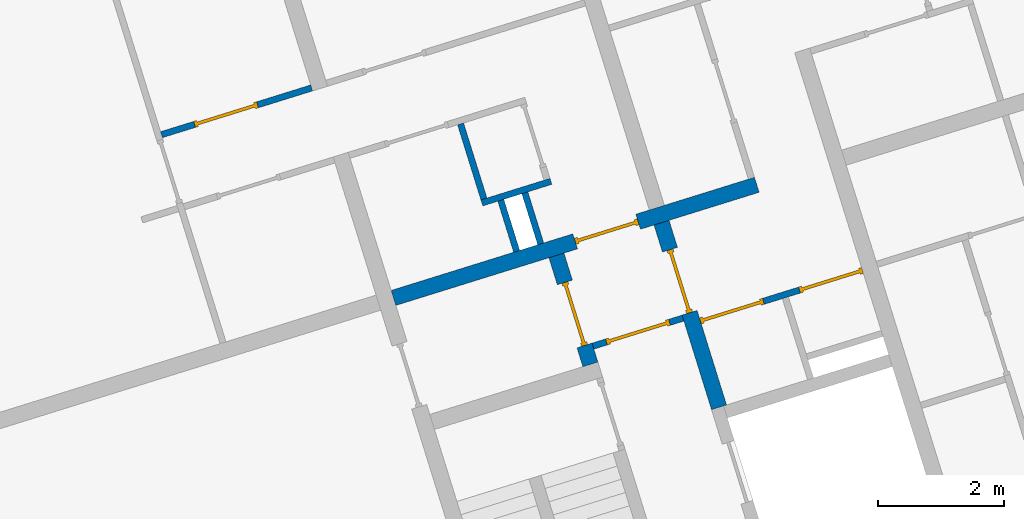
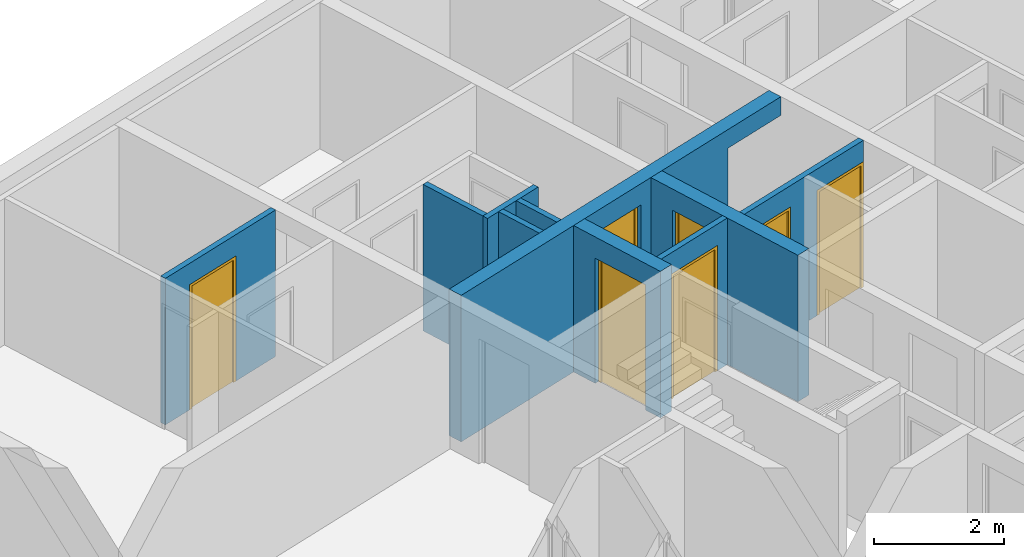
# One storey, part 5 of 9: 10 walls, 7 doors, 9 openings.
"""IFC4 building model written with IfcOpenShell, lengths in metres."""

import ifcopenshell
import ifcopenshell.guid

model = None  # the IFC model being written
_history = None  # IfcOwnerHistory: only IFC2X3 demands one
_inside = {}  # id of a spatial element -> (the spatial element, [elements in it])
_under = {}  # id of a project, library or spatial element -> (it, [spatial elements below it])
_declared = {}  # id of a project -> (the project, [libraries it declares])
_typed = {}  # id of a type object -> (the type object, [elements of that type])
_made_of = {}  # id of a material, layer set ... -> (it, [elements and type objects made of it])


def new_model(schema):
    """Start an empty IFC model of exactly this schema.

    Asked for "IFC4X3", IfcOpenShell would pick the latest addendum, in which some entities
    have other attributes; the version numbers below select the first issue.
    IFC2X3 requires an IfcOwnerHistory on every rooted entity: one is made here for all.
    """
    global model, _history
    if schema == "IFC4X3":
        model = ifcopenshell.file(schema_version=(4, 3, 0, 0))
    else:
        model = ifcopenshell.file(schema=schema)
    _inside.clear()
    _under.clear()
    _declared.clear()
    _typed.clear()
    _made_of.clear()
    _history = None
    if model.schema == "IFC2X3":
        org = make("IfcOrganization", Name="unknown")
        user = make(
            "IfcPersonAndOrganization",
            ThePerson=make("IfcPerson", FamilyName="unknown"),
            TheOrganization=org,
        )
        app = make(
            "IfcApplication",
            ApplicationDeveloper=org,
            Version="unknown",
            ApplicationFullName="unknown",
            ApplicationIdentifier="unknown",
        )
        _history = make(
            "IfcOwnerHistory",
            OwningUser=user,
            OwningApplication=app,
            ChangeAction="ADDED",
            CreationDate=0,
        )
    return model


def make(cls, **values):
    """One entity of the class cls with the attributes given. An attribute that is None is left unset."""
    return model.create_entity(
        cls, **{name: value for name, value in values.items() if value is not None}
    )


def entity(cls, *values):
    """Any entity or typed value of the class cls, its attributes in the order of the schema. None: left unset."""
    e = model.create_entity(cls)
    for i, value in enumerate(values):
        if value is not None:
            e[i] = value
    return e


def rooted(cls, **values):
    """An entity with a GlobalId (a new one), such as an element, a storey or a relation."""
    return make(cls, GlobalId=ifcopenshell.guid.new(), OwnerHistory=_history, **values)


def si_unit(unit_type, name, prefix=None):
    """IfcSIUnit, for example si_unit("LENGTHUNIT", "METRE", prefix="MILLI")."""
    return make("IfcSIUnit", UnitType=unit_type, Prefix=prefix, Name=name)


def converted_unit(unit_type, name, factor, base, dimensions=None, offset=None):
    """IfcConversionBasedUnit, such as the inch: factor (a typed value) times the base unit."""
    return make(
        "IfcConversionBasedUnit"
        if offset is None
        else "IfcConversionBasedUnitWithOffset",
        ConversionOffset=offset,
        Dimensions=None
        if dimensions is None
        else entity("IfcDimensionalExponents", *dimensions),
        UnitType=unit_type,
        Name=name,
        ConversionFactor=make(
            "IfcMeasureWithUnit", ValueComponent=factor, UnitComponent=base
        ),
    )


def assignment(units):
    """IfcUnitAssignment: the units of a project."""
    return None if units is None else make("IfcUnitAssignment", Units=units)


def point(xyz):
    """IfcCartesianPoint."""
    return None if xyz is None else make("IfcCartesianPoint", Coordinates=xyz)


def direction(xyz):
    """IfcDirection."""
    return None if xyz is None else make("IfcDirection", DirectionRatios=xyz)


def frame(location, z_axis=None, x_axis=None):
    """IfcAxis2Placement3D, a coordinate frame: its origin and axes. An axis left out is left unset."""
    return make(
        "IfcAxis2Placement3D",
        Location=point(location),
        Axis=direction(z_axis),
        RefDirection=direction(x_axis),
    )


def origin():
    """The frame at (0, 0, 0) with its axes left unset."""
    return frame((0.0, 0.0, 0.0))


def place(relative_to, where):
    """IfcLocalPlacement: puts the frame where relative to a parent placement (None: the world)."""
    return make(
        "IfcLocalPlacement", PlacementRelTo=relative_to, RelativePlacement=where
    )


def context(
    kind, dimensions, precision=None, world=None, true_north=None, identifier=None
):
    """IfcGeometricRepresentationContext, for example the 3D "Model" context."""
    return make(
        "IfcGeometricRepresentationContext",
        ContextIdentifier=identifier,
        ContextType=kind,
        CoordinateSpaceDimension=dimensions,
        Precision=precision,
        WorldCoordinateSystem=world,
        TrueNorth=true_north,
    )


def subcontext(parent, identifier, kind, view, scale=None):
    """IfcGeometricRepresentationSubContext, for example "Body" below "Model"."""
    return make(
        "IfcGeometricRepresentationSubContext",
        ContextIdentifier=identifier,
        ContextType=kind,
        ParentContext=parent,
        TargetScale=scale,
        TargetView=view,
    )


def project(units=None, contexts=None):
    """IfcProject with its units and contexts."""
    return rooted(
        "IfcProject",
        Name="project",
        RepresentationContexts=contexts,
        UnitsInContext=assignment(units),
    )


def spatial(cls, under=None, at=None, **own):
    """A site, building, storey or space (cls), placed at a placement, below another one or the project."""
    s = rooted(cls, ObjectPlacement=at, **own)
    if under is not None:
        _under.setdefault(under.id(), (under, []))[1].append(s)
    return s


def point_list(points):
    """IfcCartesianPointList2D or 3D."""
    cls = (
        "IfcCartesianPointList2D" if len(points[0]) == 2 else "IfcCartesianPointList3D"
    )
    return make(cls, CoordList=points)


def indexed_curve(points, segments=None, self_intersect=None):
    """IfcIndexedPolyCurve: lines and arcs through numbered points (the first is 1)."""
    return make(
        "IfcIndexedPolyCurve",
        Points=point_list(points),
        Segments=segments,
        SelfIntersect=self_intersect,
    )


def outline(outer, holes=None, kind="AREA"):
    """IfcArbitraryClosedProfileDef: a profile drawn as a closed curve; with holes, ...WithVoids."""
    if holes is None:
        return make("IfcArbitraryClosedProfileDef", ProfileType=kind, OuterCurve=outer)
    return make(
        "IfcArbitraryProfileDefWithVoids",
        ProfileType=kind,
        OuterCurve=outer,
        InnerCurves=holes,
    )


def extrude(swept, where, along, depth):
    """IfcExtrudedAreaSolid: the profile swept, set in the frame where, extruded along a direction by depth."""
    return make(
        "IfcExtrudedAreaSolid",
        SweptArea=swept,
        Position=where,
        ExtrudedDirection=direction(along),
        Depth=depth,
    )


def polygons(points, faces, closed=None, point_numbers=None):
    """IfcPolygonalFaceSet: a face is its outer loop, then its inner loops; points numbered from 1."""
    made = []
    for loops in faces:
        if len(loops) == 1:
            made.append(make("IfcIndexedPolygonalFace", CoordIndex=loops[0]))
        else:
            made.append(
                make(
                    "IfcIndexedPolygonalFaceWithVoids",
                    CoordIndex=loops[0],
                    InnerCoordIndices=loops[1:],
                )
            )
    return make(
        "IfcPolygonalFaceSet",
        Coordinates=point_list(points),
        Closed=closed,
        Faces=made,
        PnIndex=point_numbers,
    )


def shape(context_of_items, identifier, shape_type, items):
    """IfcShapeRepresentation: the items that make up one representation, for example the "Body"."""
    return make(
        "IfcShapeRepresentation",
        ContextOfItems=context_of_items,
        RepresentationIdentifier=identifier,
        RepresentationType=shape_type,
        Items=items,
    )


def source(mapping_origin, context_of_items, identifier, shape_type, items):
    """IfcRepresentationMap: a shape defined once, which mapped items show again and again."""
    return make(
        "IfcRepresentationMap",
        MappingOrigin=mapping_origin,
        MappedRepresentation=shape(context_of_items, identifier, shape_type, items),
    )


def transform(
    local_origin,
    x_axis=None,
    y_axis=None,
    z_axis=None,
    scale=None,
    scale2=None,
    scale3=None,
    uniform=True,
):
    """IfcCartesianTransformationOperator3D, or its non-uniform kind. x_axis, y_axis, z_axis: its Axis1, 2, 3."""
    if uniform:
        return make(
            "IfcCartesianTransformationOperator3D",
            Axis1=direction(x_axis),
            Axis2=direction(y_axis),
            LocalOrigin=point(local_origin),
            Scale=scale,
            Axis3=direction(z_axis),
        )
    return make(
        "IfcCartesianTransformationOperator3DnonUniform",
        Axis1=direction(x_axis),
        Axis2=direction(y_axis),
        LocalOrigin=point(local_origin),
        Scale=scale,
        Axis3=direction(z_axis),
        Scale2=scale2,
        Scale3=scale3,
    )


def mapped(mapping_source, mapping_target):
    """IfcMappedItem: shows the shape of a source again, moved by a transform."""
    return make(
        "IfcMappedItem", MappingSource=mapping_source, MappingTarget=mapping_target
    )


def material(Name=None, Category=None):
    """IfcMaterial."""
    return make("IfcMaterial", Name=Name, Category=Category)


def constituent(of_material, Name=None, Category=None, fraction=None):
    """IfcMaterialConstituent: one of the materials an element consists of."""
    return make(
        "IfcMaterialConstituent",
        Name=Name,
        Material=of_material,
        Fraction=fraction,
        Category=Category,
    )


def constituent_set(constituents=None, Name=None):
    """IfcMaterialConstituentSet."""
    return make(
        "IfcMaterialConstituentSet", Name=Name, MaterialConstituents=constituents
    )


def made_of(thing, what):
    """Note that an element or type object is made of a material, layer set ...; save() writes the relation."""
    if what is not None:
        _made_of.setdefault(what.id(), (what, []))[1].append(thing)
    return thing


def type_object(cls, material=None, **own):
    """A type object (cls), such as IfcWallType, which elements share."""
    return made_of(rooted(cls, **own), material)


def type_shapes(of_type, sources):
    """Give a type object the sources (RepresentationMaps) that its elements show as mapped items."""
    of_type.RepresentationMaps = sources


def element(
    cls,
    number,
    at=None,
    inside=None,
    cuts=None,
    type_object=None,
    material=None,
    context=None,
    identifier="Body",
    shape_type=None,
    held_by="IfcProductDefinitionShape",
    body=None,
    shapes=None,
    **own,
):
    """One element of the class cls, such as IfcWall. Its Tag is "e" and its number.

    at: its placement. inside: the storey or other place that contains it. cuts: it is an
    opening in that element (IfcRelVoidsElement). A single representation is given by context,
    identifier, shape_type and body (its items); several are given by shapes. held_by: the class
    of the entity that holds the representations. save() writes the other relations.
    """
    e = rooted(cls, Tag="e%d" % number, ObjectPlacement=at, **own)
    if body is not None:
        shapes = [shape(context, identifier, shape_type, body)]
    if shapes is not None:
        e.Representation = make(held_by, Representations=shapes)
    if inside is not None:
        _inside.setdefault(inside.id(), (inside, []))[1].append(e)
    if cuts is not None:
        rooted(
            "IfcRelVoidsElement", RelatingBuildingElement=cuts, RelatedOpeningElement=e
        )
    if type_object is not None:
        _typed.setdefault(type_object.id(), (type_object, []))[1].append(e)
    return made_of(e, material)


def fill(opening, filler):
    """IfcRelFillsElement: the door or window that sits in an opening."""
    return rooted(
        "IfcRelFillsElement",
        RelatingOpeningElement=opening,
        RelatedBuildingElement=filler,
    )


def aggregate(whole, parts):
    """IfcRelAggregates: a whole, such as a stair, and the parts it consists of."""
    return rooted("IfcRelAggregates", RelatingObject=whole, RelatedObjects=parts)


def save(model, path):
    """Write the relations noted so far, then the file.

    IfcRelAggregates (storeys below a building ...), IfcRelContainedInSpatialStructure (elements
    in a storey), IfcRelDefinesByType, IfcRelAssociatesMaterial and IfcRelDeclares: one each for
    every whole, place, type object, material and project.
    """
    for whole, parts in _under.values():
        aggregate(whole, parts)
    for where, things in _inside.values():
        rooted(
            "IfcRelContainedInSpatialStructure",
            RelatedElements=things,
            RelatingStructure=where,
        )
    for kind, things in _typed.values():
        rooted("IfcRelDefinesByType", RelatedObjects=things, RelatingType=kind)
    for what, things in _made_of.values():
        rooted("IfcRelAssociatesMaterial", RelatedObjects=things, RelatingMaterial=what)
    for by, libraries in _declared.values():
        rooted("IfcRelDeclares", RelatingContext=by, RelatedDefinitions=libraries)
    model.write(path)


model = new_model("IFC4")

# Units and contexts
model_context = context("Model", 3, precision=1e-05, world=origin(), true_north=direction((6.12323399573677e-17, 1.0)))
body_context = subcontext(model_context, "Body", "Model", "MODEL_VIEW")
ifc_project = project(units=[si_unit("LENGTHUNIT", "METRE"), si_unit("AREAUNIT", "SQUARE_METRE"), converted_unit("PLANEANGLEUNIT", "DEGREE", entity("IfcPlaneAngleMeasure", 0.0174532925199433), si_unit("PLANEANGLEUNIT", "RADIAN"), dimensions=[0, 0, 0, 0, 0, 0, 0]), si_unit("VOLUMEUNIT", "CUBIC_METRE")], contexts=[model_context])

# Site, building, storey
site_placement = place(None, frame((13.1347999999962, 11.9886000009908, 0.0), z_axis=(0.0, 0.0, 1.0), x_axis=(0.954770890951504, 0.297342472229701, 0.0)))
site = spatial("IfcSite", under=ifc_project, at=site_placement, Name="Schiehaven", CompositionType="ELEMENT")
building_placement = place(site_placement, origin())
building = spatial("IfcBuilding", under=site, at=building_placement, Name="VORM huis", CompositionType="ELEMENT")
storey_placement = place(building_placement, frame((0.0, 0.0, 18.9)))
storey = spatial("IfcBuildingStorey", under=building, at=storey_placement, Name="06 zesde verdieping", CompositionType="ELEMENT", Elevation=18.9)

# Wall, openings, door
ifc_material_1 = material(Name="beton_gewapend_ihw", Category="Miscellaneous")
wall_type_1 = type_object("IfcWallType", Name="Basic Wall:28_WA_skelet_wand 250mm_gen", PredefinedType="STANDARD")
wall_1_placement = place(storey_placement, frame((72.3749999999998, 22.1999999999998, 0.0), z_axis=(0.0, 0.0, 1.0), x_axis=(-1.0, 0.0, 0.0)))
wall_1 = element("IfcWall", 1, at=wall_1_placement, inside=storey, type_object=wall_type_1, material=ifc_material_1, Name="Constructieve wand", ObjectType="Wand", PredefinedType="NOTDEFINED", context=body_context, shape_type="Tessellation", body=[
    polygons([(4.225, -0.124999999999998, 2.34999999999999), (4.225, -0.124999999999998, 0.0), (7.25000000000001, -0.124999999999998, 0.0), (7.25000000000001, -0.124999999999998, 2.75), (9.99819487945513e-15, -0.124999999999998, 2.75), (9.99819487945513e-15, -0.124999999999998, 2.4), (1.2, -0.124999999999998, 2.4), (1.2, -0.124999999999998, 0.0), (3.175, -0.124999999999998, 0.0), (3.175, -0.124999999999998, 2.34999999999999), (7.25000000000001, 0.125000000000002, 0.0), (4.22500000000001, 0.125000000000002, 0.0), (4.22500000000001, 0.125000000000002, 2.34999999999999), (3.175, 0.125000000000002, 2.34999999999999), (3.175, 0.125000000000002, 0.0), (1.2, 0.125000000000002, 0.0), (1.2, 0.125000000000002, 2.4), (1.32815610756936e-14, 0.125000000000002, 2.4), (1.32815610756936e-14, 0.125000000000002, 2.75), (7.25, 0.125000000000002, 2.75)], [[[1, 2, 3, 4, 5, 6, 7, 8, 9, 10]], [[11, 12, 13, 14, 15, 16, 17, 18, 19, 20]], [[9, 8, 16, 15]], [[5, 4, 20, 19]], [[5, 19, 18, 6]], [[15, 14, 10, 9]], [[13, 12, 2, 1]], [[14, 13, 1, 10]], [[7, 17, 16, 8]], [[17, 7, 6, 18]], [[4, 3, 11, 20]], [[3, 2, 12, 11]]], closed=True),
])
opening_1_placement = place(wall_1_placement, origin())
element("IfcOpeningElement", 2, at=opening_1_placement, cuts=wall_1, Name="Constructieve wand", PredefinedType="OPENING", context=body_context, shape_type="SweptSolid", body=[
    extrude(outline(indexed_curve([(-1.2, -0.600000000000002), (1.2, -0.600000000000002), (1.2, 0.600000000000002), (-1.2, 0.600000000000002), (-1.2, -0.600000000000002)], self_intersect=False)), frame((0.599999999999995, -0.124999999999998, 1.2), z_axis=(0.0, 1.0, 0.0), x_axis=(0.0, 0.0, -1.0)), (0.0, 0.0, 1.0), 0.250000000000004),
])
opening_2_placement = place(wall_1_placement, frame((3.175, -0.124999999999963, 0.0)))
opening_2 = element("IfcOpeningElement", 3, at=opening_2_placement, cuts=wall_1, Name="Woningtoegangsdeur", PredefinedType="OPENING", context=body_context, shape_type="SweptSolid", body=[
    extrude(outline(indexed_curve([(2.34999999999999, 2.2221558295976e-31), (2.34999999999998, 1.05), (0.0, 1.05), (2.16573425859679e-15, 2.2221558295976e-31), (2.34999999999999, 2.2221558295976e-31)], self_intersect=False)), frame((0.0, 0.0, 0.0), z_axis=(0.0, 1.0, 0.0), x_axis=(0.0, 0.0, 1.0)), (0.0, 0.0, 1.0), 0.25),
])
ifc_material_2 = material(Name="PD_a_binnenwandopeningen", Category="Miscellaneous")
ifc_constituent_1 = constituent(ifc_material_2, Name="PD_a_binnenwandopeningen", Category="Miscellaneous")
ifc_material_3 = material(Name="metaal_aluminium_ntb", Category="Miscellaneous")
ifc_constituent_2 = constituent(ifc_material_3, Name="metaal_aluminium_ntb", Category="Miscellaneous")
ifc_constituent_set_1 = constituent_set(constituents=[ifc_constituent_1, ifc_constituent_2])
ifc_constituent_3 = constituent(ifc_material_2, Name="PD_a_binnenwandopeningen", Category="Miscellaneous")
ifc_constituent_4 = constituent(ifc_material_3, Name="Panel", Category="Miscellaneous")
ifc_constituent_set_2 = constituent_set(constituents=[ifc_constituent_3, ifc_constituent_4])
door_type_1 = type_object("IfcDoorType", Name="32_DO_binnendeur enkel:woningtoegangsdeur", OperationType="REVOLVING", PredefinedType="DOOR", material=ifc_constituent_set_2)
shared_shape_1 = source(origin(), body_context, "Body", "SweptSolid", [
    extrude(outline(indexed_curve([(0.475, -1.16249999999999), (0.525000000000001, -1.16249999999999), (0.525000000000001, 1.18749999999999), (-0.525000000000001, 1.18749999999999), (-0.525000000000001, -1.16249999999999), (-0.475, -1.16249999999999), (-0.475, 1.13749999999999), (0.475, 1.13749999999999), (0.475, -1.16249999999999)], self_intersect=False)), frame((0.525000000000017, 0.174999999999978, 1.16249999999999), z_axis=(0.0, -1.0, 0.0), x_axis=(1.0, 0.0, 0.0)), (0.0, 0.0, 1.0), 0.1),
    extrude(outline(indexed_curve([(-0.475, -0.025), (0.475, -0.025), (0.475, 0.025), (-0.475, 0.025), (-0.475, -0.025)], self_intersect=False)), frame((0.525000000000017, 0.12499999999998, 0.0)), (0.0, 0.0, 1.0), 2.29999999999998),
])
type_shapes(door_type_1, [shared_shape_1])
door_1_placement = place(opening_2_placement, origin())
door_1 = element("IfcDoor", 4, at=door_1_placement, inside=storey, type_object=door_type_1, material=ifc_constituent_set_1, Name="Woningtoegangsdeur", ObjectType="Deur", OperationType="REVOLVING", OverallHeight=2.34999999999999, OverallWidth=1.05, PredefinedType="DOOR", context=body_context, shape_type="MappedRepresentation", body=[
    mapped(shared_shape_1, transform((0.0, 0.0, 0.0), scale=1.0)),
])
fill(opening_2, door_1)

# Wall, opening, door
ifc_material_4 = material(Name="ntb_ntb_ntb", Category="Miscellaneous")
wall_type_2 = type_object("IfcWallType", Name="Basic Wall:22_WA_afbouw_binnenwand 250mm_gen", PredefinedType="STANDARD")
wall_2_placement = place(storey_placement, frame((67.7999999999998, 20.2599999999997, 0.0), z_axis=(0.0, 0.0, 1.0), x_axis=(0.0, 1.0, 0.0)))
wall_2 = element("IfcWall", 5, at=wall_2_placement, inside=storey, type_object=wall_type_2, material=ifc_material_4, Name="Binnenwand", ObjectType="Wand", PredefinedType="NOTDEFINED", context=body_context, shape_type="Tessellation", body=[
    polygons([(4.33146851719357e-15, -0.125000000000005, 0.0), (0.215000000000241, -0.125, 0.0), (0.31500000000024, -0.125000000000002, 0.0), (0.31500000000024, -0.125000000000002, 2.34999999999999), (1.36500000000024, -0.124999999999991, 2.34999999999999), (1.36500000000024, -0.124999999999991, 0.0), (1.81500000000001, -0.124999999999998, 0.0), (1.81500000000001, -0.124999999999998, 2.75), (0.31500000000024, -0.125000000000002, 2.75), (0.215000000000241, -0.125, 2.75), (4.33146851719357e-15, -0.125000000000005, 2.75), (0.31500000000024, 0.125000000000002, 2.34999999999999), (0.31500000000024, 0.125000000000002, 0.0), (8.66293703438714e-15, 0.125000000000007, 0.0), (4.33146851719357e-15, 0.125000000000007, 2.75), (1.81500000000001, 0.124999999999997, 2.75), (1.81500000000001, 0.124999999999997, 0.0), (1.36500000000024, 0.125000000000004, 0.0), (1.36500000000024, 0.125000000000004, 2.34999999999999)], [[[1, 2, 3, 4, 5, 6, 7, 8, 9, 10, 11]], [[12, 13, 14, 15, 16, 17, 18, 19]], [[14, 13, 3, 2, 1]], [[8, 7, 17, 16]], [[11, 10, 9, 8, 16, 15]], [[6, 5, 19, 18]], [[4, 3, 13, 12]], [[5, 4, 12, 19]], [[1, 11, 15, 14]], [[18, 17, 7, 6]]], closed=True),
])
opening_3_placement = place(wall_2_placement, frame((1.36500000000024, 0.125000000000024, 0.0)))
opening_3 = element("IfcOpeningElement", 6, at=opening_3_placement, cuts=wall_2, Name="Woningtoegangsdeur", PredefinedType="OPENING", context=body_context, shape_type="SweptSolid", body=[
    extrude(outline(indexed_curve([(2.34999999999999, 0.0), (2.34999999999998, 1.05), (0.0, 1.05), (2.16573425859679e-15, 0.0), (2.34999999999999, 0.0)], self_intersect=False)), frame((0.0, 0.0, 0.0), z_axis=(0.0, -1.0, 0.0), x_axis=(0.0, 0.0, 1.0)), (0.0, 0.0, 1.0), 0.25),
])
ifc_constituent_5 = constituent(ifc_material_2, Name="PD_a_binnenwandopeningen", Category="Miscellaneous")
ifc_constituent_6 = constituent(ifc_material_3, Name="metaal_aluminium_ntb", Category="Miscellaneous")
ifc_constituent_set_3 = constituent_set(constituents=[ifc_constituent_5, ifc_constituent_6])
ifc_constituent_7 = constituent(ifc_material_2, Name="PD_a_binnenwandopeningen", Category="Miscellaneous")
ifc_constituent_8 = constituent(ifc_material_3, Name="Panel", Category="Miscellaneous")
ifc_constituent_set_4 = constituent_set(constituents=[ifc_constituent_7, ifc_constituent_8])
door_type_2 = type_object("IfcDoorType", Name="32_DO_binnendeur enkel:woningtoegangsdeur", OperationType="REVOLVING", PredefinedType="DOOR", material=ifc_constituent_set_4)
shared_shape_2 = source(origin(), body_context, "Body", "SweptSolid", [
    extrude(outline(indexed_curve([(0.475, -1.16249999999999), (0.525000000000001, -1.16249999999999), (0.525000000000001, 1.18749999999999), (-0.525000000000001, 1.18749999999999), (-0.525000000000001, -1.16249999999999), (-0.475, -1.16249999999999), (-0.475, 1.13749999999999), (0.475, 1.13749999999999), (0.475, -1.16249999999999)], self_intersect=False)), frame((0.525000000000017, 0.174999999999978, 1.16249999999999), z_axis=(0.0, -1.0, 0.0), x_axis=(1.0, 0.0, 0.0)), (0.0, 0.0, 1.0), 0.1),
    extrude(outline(indexed_curve([(-0.475, -0.025), (0.475, -0.025), (0.475, 0.025), (-0.475, 0.025), (-0.475, -0.025)], self_intersect=False)), frame((0.525000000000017, 0.12499999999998, 0.0)), (0.0, 0.0, 1.0), 2.29999999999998),
])
type_shapes(door_type_2, [shared_shape_2])
door_2_placement = place(opening_3_placement, frame((0.0, 0.0, 0.0), z_axis=(0.0, 0.0, 1.0), x_axis=(-1.0, 0.0, 0.0)))
door_2 = element("IfcDoor", 7, at=door_2_placement, inside=storey, type_object=door_type_2, material=ifc_constituent_set_3, Name="Woningtoegangsdeur", ObjectType="Deur", OperationType="REVOLVING", OverallHeight=2.34999999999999, OverallWidth=1.05, PredefinedType="DOOR", context=body_context, shape_type="MappedRepresentation", body=[
    mapped(shared_shape_2, transform((0.0, 0.0, 0.0), scale=1.0)),
])
fill(opening_3, door_2)

wall_3_placement = place(storey_placement, frame((69.5499999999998, 19.0, 0.0), z_axis=(0.0, 0.0, 1.0), x_axis=(0.0, 1.0, 0.0)))
wall_3 = element("IfcWall", 8, at=wall_3_placement, inside=storey, type_object=wall_type_2, material=ifc_material_4, Name="Binnenwand", ObjectType="Wand", PredefinedType="NOTDEFINED", context=body_context, shape_type="Tessellation", body=[
    polygons([(2.62500000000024, -0.12500000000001, 2.34999999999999), (2.62500000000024, -0.12500000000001, 0.0), (3.075, -0.125000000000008, 0.0), (3.075, -0.125000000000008, 2.75), (0.0, -0.125000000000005, 2.75), (0.0, -0.125000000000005, 0.0), (1.57500000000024, -0.125000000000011, 0.0), (1.57500000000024, -0.125000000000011, 2.34999999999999), (3.075, 0.124999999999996, 0.0), (2.62500000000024, 0.125000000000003, 0.0), (2.62500000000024, 0.125000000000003, 2.34999999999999), (1.57500000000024, 0.124999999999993, 2.34999999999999), (1.57500000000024, 0.124999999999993, 0.0), (1.4750000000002, 0.124999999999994, 0.0), (2.16573425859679e-15, 0.12499999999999, 0.0), (2.16573425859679e-15, 0.12499999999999, 2.75), (1.4750000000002, 0.124999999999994, 2.75), (1.5750000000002, 0.124999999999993, 2.75), (3.075, 0.124999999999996, 2.75)], [[[1, 2, 3, 4, 5, 6, 7, 8]], [[9, 10, 11, 12, 13, 14, 15, 16, 17, 18, 19]], [[7, 6, 15, 14, 13]], [[4, 3, 9, 19]], [[5, 4, 19, 18, 17, 16]], [[6, 5, 16, 15]], [[13, 12, 8, 7]], [[11, 10, 2, 1]], [[12, 11, 1, 8]], [[3, 2, 10, 9]]], closed=True),
])
opening_4_placement = place(wall_3_placement, frame((1.57499999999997, -0.124999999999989, 0.0)))
opening_4 = element("IfcOpeningElement", 9, at=opening_4_placement, cuts=wall_3, Name="Woningtoegangsdeur", PredefinedType="OPENING", context=body_context, shape_type="SweptSolid", body=[
    extrude(outline(indexed_curve([(2.34999999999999, 0.0), (2.34999999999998, 1.05), (0.0, 1.05), (2.16573425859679e-15, 0.0), (2.34999999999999, 0.0)], self_intersect=False)), frame((0.0, 0.0, 0.0), z_axis=(0.0, 1.0, 0.0), x_axis=(0.0, 0.0, 1.0)), (0.0, 0.0, 1.0), 0.25),
])
ifc_constituent_9 = constituent(ifc_material_2, Name="PD_a_binnenwandopeningen", Category="Miscellaneous")
ifc_constituent_10 = constituent(ifc_material_3, Name="metaal_aluminium_ntb", Category="Miscellaneous")
ifc_constituent_set_5 = constituent_set(constituents=[ifc_constituent_9, ifc_constituent_10])
door_3_placement = place(opening_4_placement, origin())
door_3 = element("IfcDoor", 10, at=door_3_placement, inside=storey, type_object=door_type_2, material=ifc_constituent_set_5, Name="Woningtoegangsdeur", ObjectType="Deur", OperationType="REVOLVING", OverallHeight=2.34999999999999, OverallWidth=1.05, PredefinedType="DOOR", context=body_context, shape_type="MappedRepresentation", body=[
    mapped(shared_shape_2, transform((0.0, 0.0, 0.0), scale=1.0)),
])
fill(opening_4, door_3)

wall_type_3 = type_object("IfcWallType", Name="Basic Wall:22_WA_afbouw_binnenwand 100mm_gen", PredefinedType="STANDARD")
wall_4_placement = place(storey_placement, frame((67.9249999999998, 20.5249999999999, 0.0)))
wall_4 = element("IfcWall", 11, at=wall_4_placement, inside=storey, type_object=wall_type_3, material=ifc_material_4, Name="Binnenwand", ObjectType="Wand", PredefinedType="NOTDEFINED", context=body_context, shape_type="Tessellation", body=[
    polygons([(1.50000000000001, -0.0500000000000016, 2.75), (1.03359612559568e-15, -0.0499999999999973, 2.75), (1.03359612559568e-15, -0.0499999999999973, 0.0), (0.225000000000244, -0.0500000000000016, 0.0), (0.225000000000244, -0.0500000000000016, 2.34999999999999), (1.27500000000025, -0.0500000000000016, 2.34999999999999), (1.27500000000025, -0.0500000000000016, 0.0), (1.50000000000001, -0.0500000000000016, 0.0), (6.15545946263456e-16, 0.0500000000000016, 2.75), (1.50000000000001, 0.0499999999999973, 2.75), (1.50000000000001, 0.0499999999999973, 2.34999999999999), (1.50000000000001, 0.0499999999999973, 0.0), (1.27500000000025, 0.0499999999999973, 0.0), (1.27500000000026, 0.0499999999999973, 2.34999999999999), (0.225000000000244, 0.0499999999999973, 2.34999999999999), (0.225000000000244, 0.0499999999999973, 0.0), (6.15545946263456e-16, 0.0500000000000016, 0.0), (6.15545946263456e-16, 0.0500000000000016, 2.34999999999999)], [[[1, 2, 3, 4, 5, 6, 7, 8]], [[9, 10, 11, 12, 13, 14, 15, 16, 17, 18]], [[3, 17, 16, 4]], [[2, 1, 10, 9]], [[15, 5, 4, 16]], [[5, 15, 14, 6]], [[6, 14, 13, 7]], [[1, 8, 12, 11, 10]], [[3, 2, 9, 18, 17]], [[12, 8, 7, 13]]], closed=True),
])
opening_5_placement = place(wall_4_placement, frame((1.27500000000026, 0.0499999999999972, 0.0)))
opening_5 = element("IfcOpeningElement", 12, at=opening_5_placement, cuts=wall_4, Name="Vluchtdeur", PredefinedType="OPENING", context=body_context, shape_type="SweptSolid", body=[
    extrude(outline(indexed_curve([(2.34999999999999, -1.78601455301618e-29), (2.34999999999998, 1.05), (0.0, 1.05), (2.16573425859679e-15, -1.78601455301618e-29), (2.34999999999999, -1.78601455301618e-29)], self_intersect=False)), frame((0.0, 0.0, 0.0), z_axis=(0.0, -1.0, 0.0), x_axis=(0.0, 0.0, 1.0)), (0.0, 0.0, 1.0), 0.1),
])
ifc_constituent_11 = constituent(ifc_material_2, Name="PD_a_binnenwandopeningen", Category="Miscellaneous")
ifc_constituent_12 = constituent(ifc_material_3, Name="metaal_aluminium_ntb", Category="Miscellaneous")
ifc_constituent_set_6 = constituent_set(constituents=[ifc_constituent_11, ifc_constituent_12])
ifc_constituent_13 = constituent(ifc_material_2, Name="PD_a_binnenwandopeningen", Category="Miscellaneous")
ifc_constituent_14 = constituent(ifc_material_3, Name="Panel", Category="Miscellaneous")
ifc_constituent_set_7 = constituent_set(constituents=[ifc_constituent_13, ifc_constituent_14])
door_type_3 = type_object("IfcDoorType", Name="32_DO_binnendeur enkel:binnendeur zelfsluitend 30min", OperationType="NOTDEFINED", PredefinedType="DOOR", material=ifc_constituent_set_7)
shared_shape_3 = source(origin(), body_context, "Body", "SweptSolid", [
    extrude(outline(indexed_curve([(0.475, -1.16249999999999), (0.525, -1.16249999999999), (0.525, 1.18749999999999), (-0.525, 1.18749999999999), (-0.525, -1.16249999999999), (-0.475, -1.16249999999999), (-0.475, 1.13749999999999), (0.475, 1.13749999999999), (0.475, -1.16249999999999)], self_intersect=False)), frame((0.525000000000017, 0.100000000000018, 1.16249999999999), z_axis=(0.0, -1.0, 0.0), x_axis=(1.0, 0.0, 0.0)), (0.0, 0.0, 1.0), 0.1),
    extrude(outline(indexed_curve([(-0.475, -0.025), (0.475, -0.025), (0.475, 0.025), (-0.475, 0.025), (-0.475, -0.025)], self_intersect=False)), frame((0.525000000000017, 0.0499999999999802, 0.0)), (0.0, 0.0, 1.0), 2.29999999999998),
])
type_shapes(door_type_3, [shared_shape_3])
door_4_placement = place(opening_5_placement, frame((0.0, 0.0, 0.0), z_axis=(0.0, 0.0, 1.0), x_axis=(-1.0, 0.0, 0.0)))
door_4 = element("IfcDoor", 13, at=door_4_placement, inside=storey, type_object=door_type_3, material=ifc_constituent_set_6, Name="Vluchtdeur", ObjectType="Deur", OperationType="NOTDEFINED", OverallHeight=2.34999999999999, OverallWidth=1.05, PredefinedType="DOOR", context=body_context, shape_type="MappedRepresentation", body=[
    mapped(shared_shape_3, transform((0.0, 0.0, 0.0), scale=1.0)),
])
fill(opening_5, door_4)

# Walls
wall_5_placement = place(storey_placement, frame((66.9159999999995, 23.2250000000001, 0.0)))
element("IfcWall", 14, at=wall_5_placement, inside=storey, type_object=wall_type_3, material=ifc_material_4, Name="Binnenwand", ObjectType="Wand", PredefinedType="NOTDEFINED", context=body_context, shape_type="SweptSolid", body=[
    extrude(outline(indexed_curve([(1.15, 0.0500000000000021), (5.44597429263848e-16, 0.0500000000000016), (-5.44597429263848e-16, -0.0500000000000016), (1.15, -0.0500000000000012), (1.15, 0.0500000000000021)], self_intersect=False)), origin(), (0.0, 0.0, 1.0), 2.75),
])
wall_6_placement = place(storey_placement, frame((66.9659999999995, 23.2750000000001, 0.0), z_axis=(0.0, 0.0, 1.0), x_axis=(0.0, 1.0, 0.0)))
element("IfcWall", 15, at=wall_6_placement, inside=storey, type_object=wall_type_3, material=ifc_material_4, Name="Binnenwand", ObjectType="Wand", PredefinedType="NOTDEFINED", context=body_context, shape_type="SweptSolid", body=[
    extrude(outline(indexed_curve([(1.25, 0.0499999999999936), (4.9348290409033e-16, 0.0499999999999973), (-4.9348290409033e-16, -0.0499999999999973), (1.25, -0.050000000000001), (1.25, 0.0499999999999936)], self_intersect=False)), origin(), (0.0, 0.0, 1.0), 2.75),
])
wall_7_placement = place(storey_placement, frame((67.6159999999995, 22.3250000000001, 0.0), z_axis=(0.0, 0.0, 1.0), x_axis=(0.0, 1.0, 0.0)))
element("IfcWall", 16, at=wall_7_placement, inside=storey, type_object=wall_type_3, material=ifc_material_4, Name="Binnenwand", ObjectType="Wand", PredefinedType="NOTDEFINED", context=body_context, shape_type="SweptSolid", body=[
    extrude(outline(indexed_curve([(0.85000000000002, 0.0499999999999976), (4.9348290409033e-16, 0.0499999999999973), (-4.9348290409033e-16, -0.0499999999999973), (0.850000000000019, -0.049999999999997), (0.85000000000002, 0.0499999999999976)], self_intersect=False)), origin(), (0.0, 0.0, 1.0), 2.75),
])

# Wall, opening, door
wall_8_placement = place(storey_placement, frame((64.8749999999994, 25.7750000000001, 0.0), z_axis=(0.0, 0.0, 1.0), x_axis=(-1.0, 0.0, 0.0)))
wall_8 = element("IfcWall", 17, at=wall_8_placement, inside=storey, type_object=wall_type_3, material=ifc_material_4, Name="Binnenwand", ObjectType="Wand", PredefinedType="NOTDEFINED", context=body_context, shape_type="Tessellation", body=[
    polygons([(-6.39486579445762e-16, -0.0499999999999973, 2.16573425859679e-15), (0.899999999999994, -0.0499999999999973, 2.16573425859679e-15), (0.899999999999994, -0.0499999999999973, 2.34999999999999), (1.95, -0.049999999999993, 2.34999999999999), (1.95, -0.049999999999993, 2.16573425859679e-15), (2.5, -0.049999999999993, 2.16573425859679e-15), (2.5, -0.049999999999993, 2.75), (-6.39486579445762e-16, -0.0499999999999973, 2.75), (0.899999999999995, 0.0500000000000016, 2.34999999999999), (0.899999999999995, 0.0500000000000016, 2.16573425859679e-15), (8.72504332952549e-16, 0.0500000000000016, 2.16573425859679e-15), (8.72504332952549e-16, 0.0500000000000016, 2.75), (2.5, 0.050000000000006, 2.75), (2.5, 0.050000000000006, 2.16573425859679e-15), (1.95, 0.050000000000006, 2.16573425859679e-15), (1.95, 0.050000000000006, 2.34999999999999)], [[[1, 2, 3, 4, 5, 6, 7, 8]], [[9, 10, 11, 12, 13, 14, 15, 16]], [[11, 10, 2, 1]], [[8, 7, 13, 12]], [[1, 8, 12, 11]], [[5, 4, 16, 15]], [[3, 2, 10, 9]], [[4, 3, 9, 16]], [[7, 6, 14, 13]], [[15, 14, 6, 5]]], closed=True),
])
opening_6_placement = place(wall_8_placement, frame((0.899999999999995, -0.049999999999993, 0.0)))
opening_6 = element("IfcOpeningElement", 18, at=opening_6_placement, cuts=wall_8, Name="Binnendeur", PredefinedType="OPENING", context=body_context, shape_type="SweptSolid", body=[
    extrude(outline(indexed_curve([(2.34999999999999, 1.05), (0.0, 1.05), (0.0, 0.0), (2.34999999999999, 0.0), (2.34999999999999, 1.05)], self_intersect=False)), frame((0.0, 0.0, 0.0), z_axis=(0.0, 1.0, 0.0), x_axis=(0.0, 0.0, 1.0)), (0.0, 0.0, 1.0), 0.1),
])
ifc_constituent_15 = constituent(ifc_material_2, Name="PD_a_binnenwandopeningen", Category="Miscellaneous")
ifc_constituent_16 = constituent(ifc_material_3, Name="metaal_aluminium_ntb", Category="Miscellaneous")
ifc_constituent_set_8 = constituent_set(constituents=[ifc_constituent_15, ifc_constituent_16])
ifc_constituent_17 = constituent(ifc_material_2, Name="PD_a_binnenwandopeningen", Category="Miscellaneous")
ifc_constituent_18 = constituent(ifc_material_3, Name="Panel", Category="Miscellaneous")
ifc_constituent_set_9 = constituent_set(constituents=[ifc_constituent_17, ifc_constituent_18])
door_type_4 = type_object("IfcDoorType", Name="32_DO_binnendeur enkel:binnendeur", OperationType="REVOLVING", PredefinedType="DOOR", material=ifc_constituent_set_9)
shared_shape_4 = source(origin(), body_context, "Body", "SweptSolid", [
    extrude(outline(indexed_curve([(-1.16249999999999, -0.525000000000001), (1.18749999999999, -0.525), (1.18749999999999, 0.525), (-1.16249999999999, 0.525), (-1.16249999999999, 0.475), (1.13749999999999, 0.475), (1.13749999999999, -0.475), (-1.16249999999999, -0.475), (-1.16249999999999, -0.525000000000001)], self_intersect=False)), frame((0.525000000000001, 0.0, 1.16249999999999), z_axis=(0.0, 1.0, 0.0), x_axis=(0.0, 0.0, 1.0)), (0.0, 0.0, 1.0), 0.1),
    extrude(outline(indexed_curve([(-0.025, -0.475), (0.025, -0.475), (0.025, 0.475), (-0.025, 0.475), (-0.025, -0.475)], self_intersect=False)), frame((0.525000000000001, 0.0499999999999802, 0.0), z_axis=(0.0, 0.0, 1.0), x_axis=(0.0, 1.0, 0.0)), (0.0, 0.0, 1.0), 2.29999999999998),
])
type_shapes(door_type_4, [shared_shape_4])
door_5_placement = place(opening_6_placement, origin())
door_5 = element("IfcDoor", 19, at=door_5_placement, inside=storey, type_object=door_type_4, material=ifc_constituent_set_8, Name="Binnendeur", ObjectType="Deur", OperationType="REVOLVING", OverallHeight=2.34999999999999, OverallWidth=1.05, PredefinedType="DOOR", context=body_context, shape_type="MappedRepresentation", body=[
    mapped(shared_shape_4, transform((0.0, 0.0, 0.0), scale=1.0)),
])
fill(opening_6, door_5)

# Wall
wall_9_placement = place(storey_placement, frame((67.2159999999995, 22.3250000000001, 0.0), z_axis=(0.0, 0.0, 1.0), x_axis=(0.0, 1.0, 0.0)))
element("IfcWall", 20, at=wall_9_placement, inside=storey, type_object=wall_type_3, material=ifc_material_4, Name="Binnenwand", ObjectType="Wand", PredefinedType="NOTDEFINED", context=body_context, shape_type="SweptSolid", body=[
    extrude(outline(indexed_curve([(0.850000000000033, 0.0499999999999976), (4.9348290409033e-16, 0.0499999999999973), (-4.9348290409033e-16, -0.0499999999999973), (0.850000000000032, -0.049999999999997), (0.850000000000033, 0.0499999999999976)], self_intersect=False)), origin(), (0.0, 0.0, 1.0), 2.75),
])

# Wall, openings, doors
wall_10_placement = place(storey_placement, frame((72.3749999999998, 20.3999999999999, 0.0), z_axis=(0.0, 0.0, 1.0), x_axis=(-1.0, 0.0, 0.0)))
wall_10 = element("IfcWall", 21, at=wall_10_placement, inside=storey, type_object=wall_type_3, material=ifc_material_4, Name="Binnenwand", ObjectType="Wand", PredefinedType="NOTDEFINED", context=body_context, shape_type="Tessellation", body=[
    polygons([(2.70000000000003, -0.0499999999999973, 2.75000000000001), (3.45762825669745e-15, -0.0499999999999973, 2.75000000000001), (3.45762825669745e-15, -0.0499999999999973, 2.34999999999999), (1.05, -0.0499999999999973, 2.34999999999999), (1.05, -0.0499999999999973, 2.16573425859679e-15), (1.65000000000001, -0.0499999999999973, 2.16573425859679e-15), (1.65000000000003, -0.0499999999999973, 2.34999999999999), (2.70000000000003, -0.0499999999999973, 2.34999999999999), (4.28795154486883e-15, 0.0500000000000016, 2.75000000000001), (1.25000000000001, 0.0500000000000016, 2.75000000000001), (1.35000000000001, 0.0500000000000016, 2.75000000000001), (2.70000000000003, 0.0500000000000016, 2.75000000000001), (2.70000000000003, 0.0500000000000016, 2.34999999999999), (1.65000000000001, 0.0500000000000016, 2.34999999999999), (1.65000000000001, 0.0500000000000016, 2.16573425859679e-15), (1.35000000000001, 0.0500000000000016, 2.16573425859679e-15), (1.25000000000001, 0.0500000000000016, 2.16573425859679e-15), (1.05, 0.0500000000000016, 2.16573425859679e-15), (1.05, 0.0500000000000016, 2.34999999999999), (4.28795154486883e-15, 0.0500000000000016, 2.34999999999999)], [[[1, 2, 3, 4, 5, 6, 7, 8]], [[9, 10, 11, 12, 13, 14, 15, 16, 17, 18, 19, 20]], [[15, 6, 5, 18, 17, 16]], [[12, 1, 8, 13]], [[2, 1, 12, 11, 10, 9]], [[2, 9, 20, 3]], [[4, 19, 18, 5]], [[19, 4, 3, 20]], [[14, 7, 6, 15]], [[7, 14, 13, 8]]], closed=True),
])
opening_7_placement = place(wall_10_placement, frame((1.05, 0.0500000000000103, 0.0)))
opening_7 = element("IfcOpeningElement", 22, at=opening_7_placement, cuts=wall_10, Name="Binnendeur", PredefinedType="OPENING", context=body_context, shape_type="SweptSolid", body=[
    extrude(outline(indexed_curve([(2.34999999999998, 4.91711606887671e-31), (2.34999999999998, 1.05), (0.0, 1.05), (0.0, 4.91711606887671e-31), (2.34999999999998, 4.91711606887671e-31)], self_intersect=False)), frame((0.0, 0.0, 0.0), z_axis=(0.0, -1.0, 0.0), x_axis=(0.0, 0.0, 1.0)), (0.0, 0.0, 1.0), 0.1),
])
opening_8_placement = place(wall_10_placement, frame((72.3749999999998, 20.3999999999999, 0.0), z_axis=(0.0, 0.0, 1.0), x_axis=(-1.0, 0.0, 0.0)))
element("IfcOpeningElement", 23, at=opening_8_placement, cuts=wall_10, Name="Binnendeur", PredefinedType="OPENING", context=body_context, shape_type="SweptSolid", body=[
    extrude(outline(indexed_curve([(-1.17499999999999, -0.525000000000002), (1.17499999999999, -0.525000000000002), (1.17499999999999, 0.525000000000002), (-1.17499999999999, 0.525000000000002), (-1.17499999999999, -0.525000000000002)], self_intersect=False)), frame((71.8499999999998, 21.8739999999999, 1.17499999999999), z_axis=(0.0, -1.0, 0.0), x_axis=(0.0, 0.0, -1.0)), (0.0, 0.0, 1.0), 3.048),
])
opening_9_placement = place(wall_10_placement, frame((2.70000000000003, 0.0500000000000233, 0.0)))
opening_9 = element("IfcOpeningElement", 24, at=opening_9_placement, cuts=wall_10, Name="Binnendeur", PredefinedType="OPENING", context=body_context, shape_type="SweptSolid", body=[
    extrude(outline(indexed_curve([(2.34999999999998, 4.91711606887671e-31), (2.34999999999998, 1.05), (0.0, 1.05), (0.0, 4.91711606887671e-31), (2.34999999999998, 4.91711606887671e-31)], self_intersect=False)), frame((0.0, 0.0, 0.0), z_axis=(0.0, -1.0, 0.0), x_axis=(0.0, 0.0, 1.0)), (0.0, 0.0, 1.0), 0.1),
])
ifc_constituent_19 = constituent(ifc_material_2, Name="PD_a_binnenwandopeningen", Category="Miscellaneous")
ifc_constituent_20 = constituent(ifc_material_3, Name="metaal_aluminium_ntb", Category="Miscellaneous")
ifc_constituent_set_10 = constituent_set(constituents=[ifc_constituent_19, ifc_constituent_20])
ifc_constituent_21 = constituent(ifc_material_2, Name="PD_a_binnenwandopeningen", Category="Miscellaneous")
ifc_constituent_22 = constituent(ifc_material_3, Name="Panel", Category="Miscellaneous")
ifc_constituent_set_11 = constituent_set(constituents=[ifc_constituent_21, ifc_constituent_22])
door_type_5 = type_object("IfcDoorType", Name="32_DO_binnendeur enkel:binnendeur", OperationType="REVOLVING", PredefinedType="DOOR", material=ifc_constituent_set_11)
shared_shape_5 = source(origin(), body_context, "Body", "SweptSolid", [
    extrude(outline(indexed_curve([(0.475, -1.16249999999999), (0.525, -1.16249999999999), (0.525, 1.18749999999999), (-0.525, 1.18749999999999), (-0.525, -1.16249999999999), (-0.475, -1.16249999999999), (-0.475, 1.13749999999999), (0.475, 1.13749999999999), (0.475, -1.16249999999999)], self_intersect=False)), frame((0.525000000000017, 0.100000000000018, 1.16249999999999), z_axis=(0.0, -1.0, 0.0), x_axis=(1.0, 0.0, 0.0)), (0.0, 0.0, 1.0), 0.1),
    extrude(outline(indexed_curve([(-0.475, -0.025), (0.475, -0.025), (0.475, 0.025), (-0.475, 0.025), (-0.475, -0.025)], self_intersect=False)), frame((0.525000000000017, 0.0499999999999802, 0.0)), (0.0, 0.0, 1.0), 2.29999999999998),
])
type_shapes(door_type_5, [shared_shape_5])
door_6_placement = place(opening_7_placement, frame((0.0, 0.0, 0.0), z_axis=(0.0, 0.0, 1.0), x_axis=(-1.0, 0.0, 0.0)))
door_6 = element("IfcDoor", 25, at=door_6_placement, inside=storey, type_object=door_type_5, material=ifc_constituent_set_10, Name="Binnendeur", ObjectType="Deur", OperationType="REVOLVING", OverallHeight=2.34999999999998, OverallWidth=1.05, PredefinedType="DOOR", context=body_context, shape_type="MappedRepresentation", body=[
    mapped(shared_shape_5, transform((0.0, 0.0, 0.0), scale=1.0)),
])
fill(opening_7, door_6)
ifc_constituent_23 = constituent(ifc_material_2, Name="PD_a_binnenwandopeningen", Category="Miscellaneous")
ifc_constituent_24 = constituent(ifc_material_3, Name="metaal_aluminium_ntb", Category="Miscellaneous")
ifc_constituent_set_12 = constituent_set(constituents=[ifc_constituent_23, ifc_constituent_24])
door_7_placement = place(opening_9_placement, frame((0.0, 0.0, 0.0), z_axis=(0.0, 0.0, 1.0), x_axis=(-1.0, 0.0, 0.0)))
door_7 = element("IfcDoor", 26, at=door_7_placement, inside=storey, type_object=door_type_5, material=ifc_constituent_set_12, Name="Binnendeur", ObjectType="Deur", OperationType="REVOLVING", OverallHeight=2.34999999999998, OverallWidth=1.05, PredefinedType="DOOR", context=body_context, shape_type="MappedRepresentation", body=[
    mapped(shared_shape_5, transform((0.0, 0.0, 0.0), scale=1.0)),
])
fill(opening_9, door_7)

save(model, "model.ifc")
